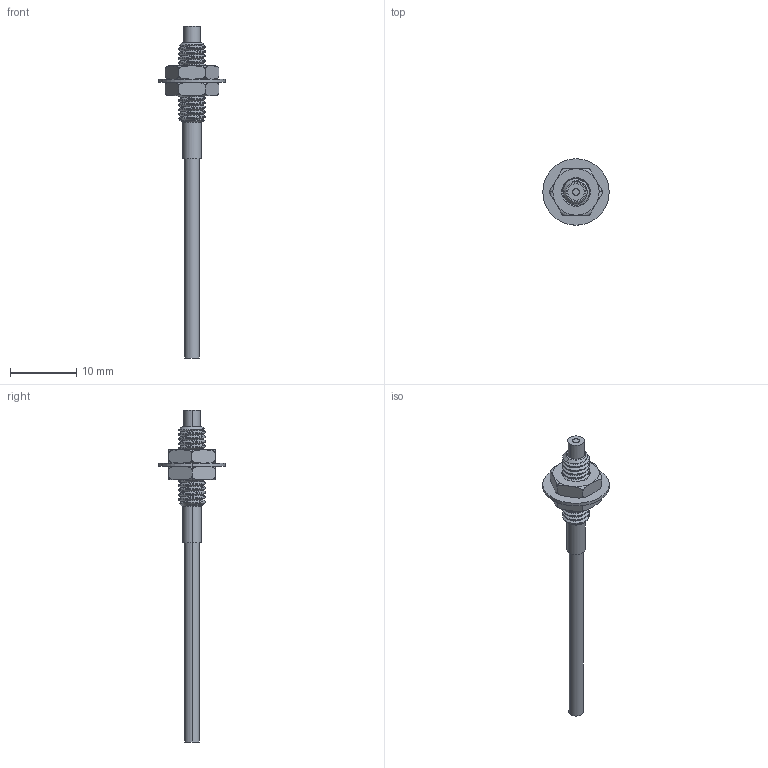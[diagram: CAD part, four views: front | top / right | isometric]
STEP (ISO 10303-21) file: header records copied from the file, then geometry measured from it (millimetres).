
FILE_DESCRIPTION (( 'STEP AP203' ), '1' );
FILE_NAME ('FDT-410_R.STEP', '2020-11-04T10:08:23', ( '' ), ( '' ), 'SwSTEP 2.0', 'SolidWorks 2020', '' );
FILE_SCHEMA (( 'CONFIG_CONTROL_DESIGN' ));
Length unit declared in the file: millimetre
Products named in the file (4): FDT-410_R; M4蹟譫x2x2x2; M4菜え____
Assembly tree (4 placements, depth 2):
  FDT-410_R
    FDT-410_R
    M4菜え____
    M4蹟譫x2x2x2  x2
Bounding box: 10 x 10 x 50 mm (x, y, z)
Volume: 440.8 mm3; surface area: 939.1 mm2
Topology: 4 solids, 4 shells, 112 faces, 286 edges, 187 vertices
Faces by surface type: cylinder 55, plane 25, cone 15, bspline 9, torus 8
Entity records: 6937 total; most frequent: CARTESIAN_POINT 4620, ORIENTED_EDGE 450, DIRECTION 343, EDGE_CURVE 225, VERTEX_POINT 148, AXIS2_PLACEMENT_3D 139, EDGE_LOOP 97, FACE_OUTER_BOUND 88
